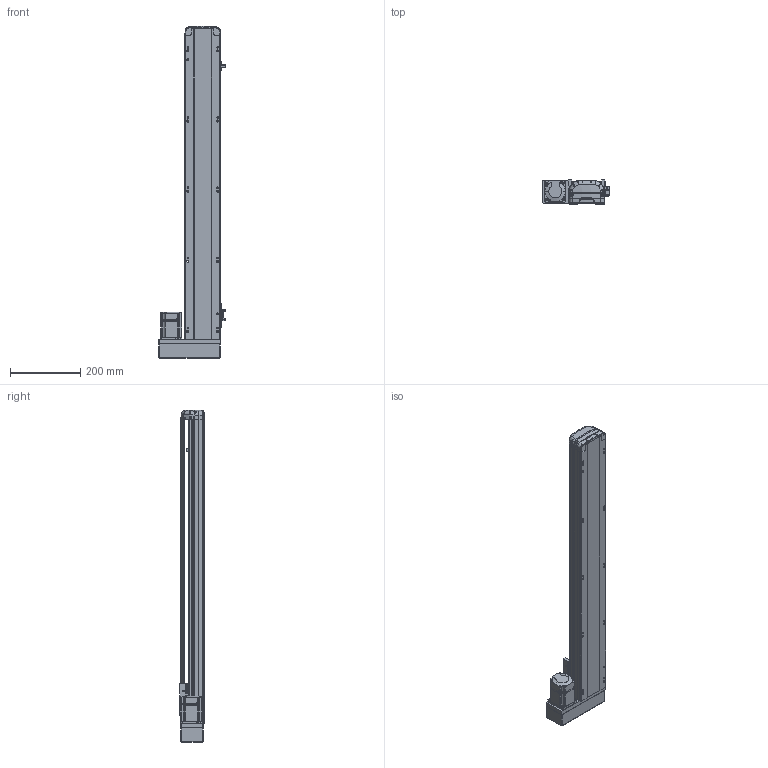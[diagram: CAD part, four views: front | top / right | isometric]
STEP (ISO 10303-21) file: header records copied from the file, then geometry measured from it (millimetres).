
FILE_DESCRIPTION (( 'STEP AP214' ), '1' );
FILE_NAME ('RTH10-XX-700-L-M20-C4.STEP', '2025-10-25T03:48:04', ( 'Microsoft' ), ( 'Microsoft' ), 'SwSTEP 2.0', 'SolidWorks 2018', '' );
FILE_SCHEMA (( 'AUTOMOTIVE_DESIGN' ));
Length unit declared in the file: millimetre
Products named in the file (10): N_RTH12-M-007P-奻裔^RTH10-XX-XX-L-M20-C4; N_OMRON EE-SX672 传感器^RTH10-XX-XX-L-M20-C4; N_RTH12-L-008萇儂啣^RTH10-XX-XX-L-M20-C4; N_RTH12-M-011P-臏倰第菁釱^RTH10-XX-XX-L-M20-C4; N_RTH13-L-012覜茼え俋离^RTH10-XX-XX-L-M20-C4; N_RTH12-L-018-裔赽^RTH10-XX-XX-L-M20-C4; N_200W-1^RTH10-XX-XX-L-M20-C4; N_RTH12-GY-004-賑釱^RTH10-XX-XX-L-M20-C4; RTH10-XX-700-L-M20-C4; N_RTH12-GY-001P^RTH10-XX-XX-L-M20-C4
Assembly tree (11 placements, depth 2):
  RTH10-XX-700-L-M20-C4
    N_RTH12-M-011P-臏倰第菁釱^RTH10-XX-XX-L-M20-C4
    N_RTH13-L-012覜茼え俋离^RTH10-XX-XX-L-M20-C4
    N_OMRON EE-SX672 传感器^RTH10-XX-XX-L-M20-C4  x3
    N_200W-1^RTH10-XX-XX-L-M20-C4
    N_RTH12-M-007P-奻裔^RTH10-XX-XX-L-M20-C4
    N_RTH12-L-008萇儂啣^RTH10-XX-XX-L-M20-C4
    N_RTH12-L-018-裔赽^RTH10-XX-XX-L-M20-C4
    N_RTH12-GY-004-賑釱^RTH10-XX-XX-L-M20-C4
    N_RTH12-GY-001P^RTH10-XX-XX-L-M20-C4
Bounding box: 190 x 70 x 947.14 mm (x, y, z)
Volume: 4247648.7 mm3; surface area: 643024.6 mm2
Topology: 10 solids, 12 shells, 1976 faces, 5509 edges, 3617 vertices
Faces by surface type: plane 983, cylinder 486, bspline 472, cone 29, sphere 4, torus 2
Entity records: 59499 total; most frequent: CARTESIAN_POINT 23365, ORIENTED_EDGE 8090, DIRECTION 6263, EDGE_CURVE 4051, VERTEX_POINT 2661, LINE 2169, VECTOR 2169, AXIS2_PLACEMENT_3D 2047
